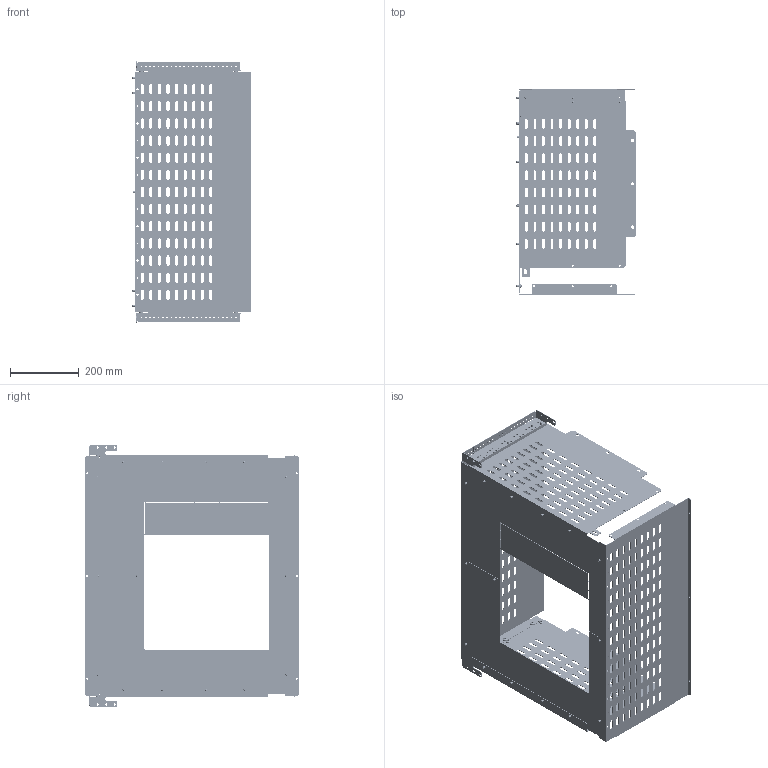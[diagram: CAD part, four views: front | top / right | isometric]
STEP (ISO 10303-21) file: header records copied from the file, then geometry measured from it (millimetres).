
FILE_DESCRIPTION (( 'STEP AP203' ), '1' );
FILE_NAME ('FO-00-3ADW-060-080 Êîìïëåêò ñåêöèîíèðîâàíèÿ 2a-3a äëÿ ARMAT ACB òèïîðàçìåð D âûêàòíîãî èñïîëíåíèÿ 3II4P 600õ800.STEP', '2025-08-21T08:29:43', ( '' ), ( '' ), 'SwSTEP 2.0', 'SolidWorks 2023', '' );
FILE_SCHEMA (( 'CONFIG_CONTROL_DESIGN' ));
Length unit declared in the file: millimetre
Products named in the file (1): FO-00-3ADW-060-080 Комплект секционирования 2a-3a для ARMAT ACB типоразмер D выкатного исполнения 3II4P 600х800
Bounding box: 349 x 622 x 766 mm (x, y, z)
Volume: 1797797.3 mm3; surface area: 2283053.1 mm2
Topology: 1 solids, 17 shells, 3391 faces, 9709 edges, 6404 vertices
Faces by surface type: cylinder 1913, plane 1316, cone 54, sphere 54, torus 54
Entity records: 115494 total; most frequent: CARTESIAN_POINT 21910, DIRECTION 19669, ORIENTED_EDGE 19418, EDGE_CURVE 9709, AXIS2_PLACEMENT_3D 7067, VERTEX_POINT 6404, VECTOR 5535, LINE 5535
